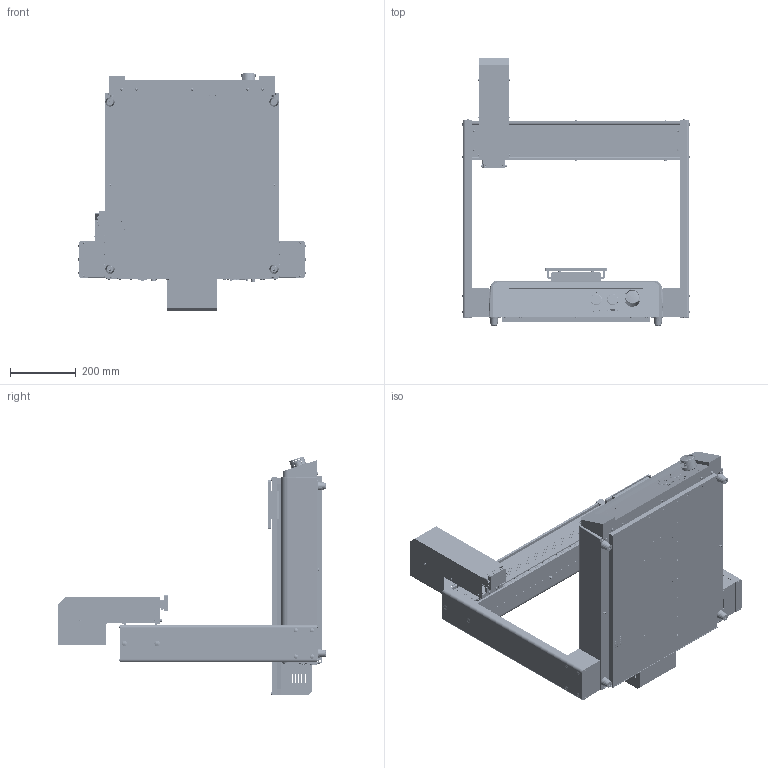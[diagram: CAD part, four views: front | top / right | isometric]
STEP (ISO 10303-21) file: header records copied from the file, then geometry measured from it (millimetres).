
FILE_DESCRIPTION(('FreeCAD Model'),'2;1');
FILE_NAME('C:/Users/martin.stroffek/Desktop/robots/E/NORDSONEFD-7361348 ROBOT E5TP 3 AXIS 500X500X150MM.STEP','2020-02-01T17:22:42',('Author'),(''), 'Open CASCADE STEP processor 7.2','FreeCAD','Unknown');
FILE_SCHEMA(('AUTOMOTIVE_DESIGN { 1 0 10303 214 1 1 1 1 }'));
Length unit declared in the file: millimetre
Products named in the file (5): NORDSONEFD_7361348_ROBOT_E5TP_3_AXIS_500X500X150MM; NORDSONEFD-7361348_ROBOT_E5TP_3_AXIS_500X500X150MM_E5-Base; NORDSONEFD-7361348_ROBOT_E5TP_3_AXIS_500X500X150MM_E5-Fixture_plate; NORDSONEFD-7361348_ROBOT_E5TP_3_AXIS_500X500X150MM_E5-X_carriage; NORDSONEFD-7361348_ROBOT_E5TP_3_AXIS_500X500X150MM_E5-Z_head
Assembly tree (4 placements, depth 2):
  NORDSONEFD_7361348_ROBOT_E5TP_3_AXIS_500X500X150MM
    NORDSONEFD-7361348_ROBOT_E5TP_3_AXIS_500X500X150MM_E5-Base
    NORDSONEFD-7361348_ROBOT_E5TP_3_AXIS_500X500X150MM_E5-Fixture_plate
    NORDSONEFD-7361348_ROBOT_E5TP_3_AXIS_500X500X150MM_E5-X_carriage
    NORDSONEFD-7361348_ROBOT_E5TP_3_AXIS_500X500X150MM_E5-Z_head
Bounding box: 692.46 x 814.25 x 728.16 mm (x, y, z)
Volume: 12544010.2 mm3; surface area: 4715646.7 mm2
Topology: 4 solids, 4 shells, 9849 faces, 26573 edges, 17217 vertices
Faces by surface type: plane 4724, cylinder 2373, bspline 1631, cone 1067, sphere 36, revolution 14, torus 4
Entity records: 939336 total; most frequent: CARTESIAN_POINT 382463, DIRECTION 80682, ORIENTED_EDGE 52532, PCURVE 52532, DEFINITIONAL_REPRESENTATION 52532, LINE 48048, VECTOR 48048, EDGE_CURVE 26266
